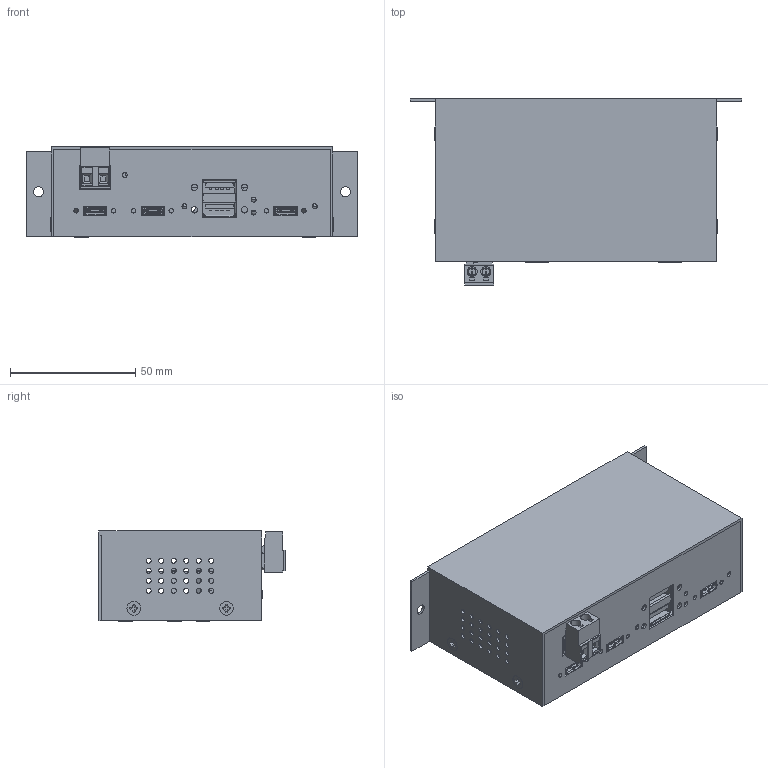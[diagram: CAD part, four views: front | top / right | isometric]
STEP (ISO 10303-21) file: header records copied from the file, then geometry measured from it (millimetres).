
FILE_DESCRIPTION(('FreeCAD Model'),'2;1');
FILE_NAME('X:/Technische Zeichnungen/EX-1274HMV/EX-1274HMV_3D.step', '2018-09-13T13:29:36',('Author'),(''), 'Open CASCADE STEP processor 6.8','FreeCAD','Unknown');
FILE_SCHEMA(('AUTOMOTIVE_DESIGN_CC2 { 1 2 10303 214 -1 1 5 4 }'));
Products named in the file (1): EX-1274HMV_3D
Bounding box: 132.6 x 74.35 x 36 mm (x, y, z)
Volume: 55755.5 mm3; surface area: 88145.3 mm2
Topology: 1 solids, 6 shells, 3985 faces, 11803 edges, 7809 vertices
Faces by surface type: plane 2636, cylinder 979, cone 276, torus 70, sphere 24
Full cylindrical faces by diameter (mm): 0.55 x6, 1.8 x6, 2 x53, 2.156 x8, 2.5 x4, 2.55 x4, 2.6 x4, 3.12 x2, 3.6 x16, 4 x4
Entity records: 454986 total; most frequent: CARTESIAN_POINT 207307, DIRECTION 36862, ORIENTED_EDGE 23570, PCURVE 23570, DEFINITIONAL_REPRESENTATION 23570, LINE 22194, VECTOR 22194, EDGE_CURVE 11785
